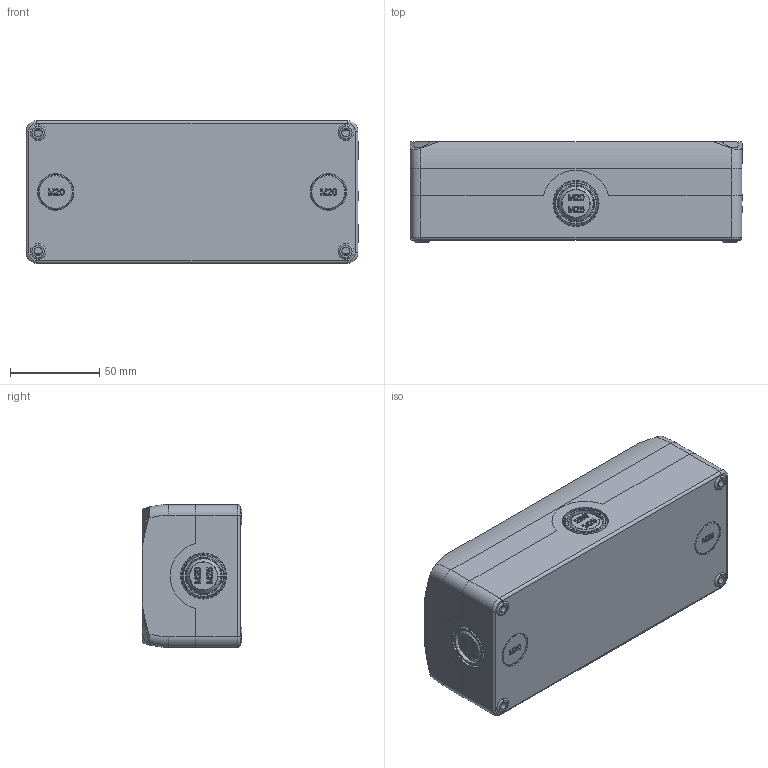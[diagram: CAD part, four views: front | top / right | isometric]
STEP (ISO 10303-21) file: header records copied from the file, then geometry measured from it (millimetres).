
FILE_DESCRIPTION (( 'STEP AP214' ), '1' );
FILE_NAME ('ZF_STEP_ES_34000.step', '2016-09-07T12:30:34', ( 'Pizzato Elettrica' ), ( '' ), 'SwSTEP 2.0', 'SolidWorks 2014', '' );
FILE_SCHEMA (( 'AUTOMOTIVE_DESIGN' ));
Length unit declared in the file: millimetre
Products named in the file (5): Tappo D_24176; Tappo C_24175; 24321_3DWeb_24251; 24320_3DWeb_24200; ZF_STEP_ES_34000
Assembly tree (6 placements, depth 2):
  ZF_STEP_ES_34000
    24320_3DWeb_24200
    24321_3DWeb_24251
    Tappo C_24175  x2
    Tappo D_24176  x2
Bounding box: 186 x 56 x 80 mm (x, y, z)
Volume: 765231.7 mm3; surface area: 108978 mm2
Topology: 6 solids, 6 shells, 976 faces, 2520 edges, 1648 vertices
Faces by surface type: plane 452, bspline 214, cylinder 166, torus 76, cone 60, sphere 8
Entity records: 38550 total; most frequent: CARTESIAN_POINT 18061, ORIENTED_EDGE 4512, DIRECTION 3647, EDGE_CURVE 2256, VERTEX_POINT 1476, VECTOR 1223, LINE 1223, AXIS2_PLACEMENT_3D 1212
